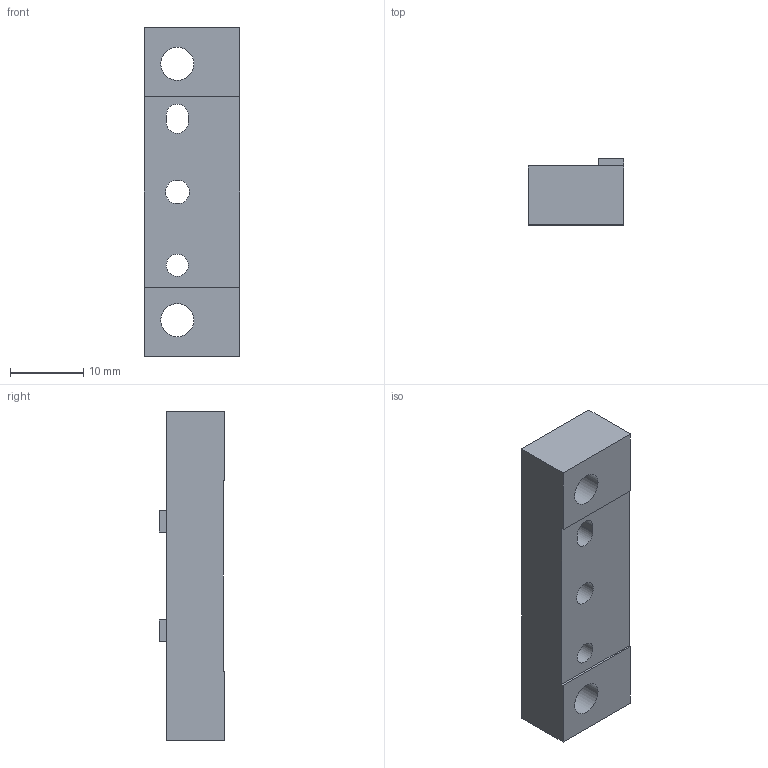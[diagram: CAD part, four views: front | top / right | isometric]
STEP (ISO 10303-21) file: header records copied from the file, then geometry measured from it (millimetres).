
FILE_DESCRIPTION(/* description */ (''),/* implementation_level */ '2;1');
FILE_NAME(/* name */ 'C:\Users\strothej\Documents\ActualDocuments\MicroscopeParts\TwoPhotonSystem\ScanningMechanics\v35\Drawings\Support_Mirror_Spacer.stp',/* time_stamp */ '2017-11-07T15:09:38-08:00',/* author */ ('strothej'),/* organization */ (''),/* preprocessor_version */ 'ST-DEVELOPER v16.1',/* originating_system */ 'Autodesk Inventor 2016',/* authorisation */ '');
FILE_SCHEMA (('AUTOMOTIVE_DESIGN { 1 0 10303 214 3 1 1 }'));
Length unit declared in the file: millimetre
Products named in the file (1): Support_Mirror_Spacer
Bounding box: 13 x 9 x 45 mm (x, y, z)
Volume: 4164.8 mm3; surface area: 2469.5 mm2
Topology: 1 solids, 1 shells, 26 faces, 75 edges, 51 vertices
Faces by surface type: plane 20, cylinder 6
Full cylindrical faces by diameter (mm): 3 x1, 3.242 x1, 4.5 x2
Entity records: 852 total; most frequent: CARTESIAN_POINT 143, ORIENTED_EDGE 136, DIRECTION 134, EDGE_CURVE 68, LINE 56, VECTOR 56, VERTEX_POINT 48, EDGE_LOOP 40
